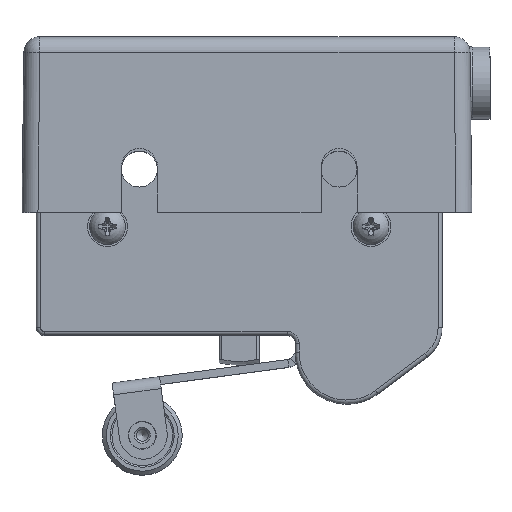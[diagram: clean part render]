
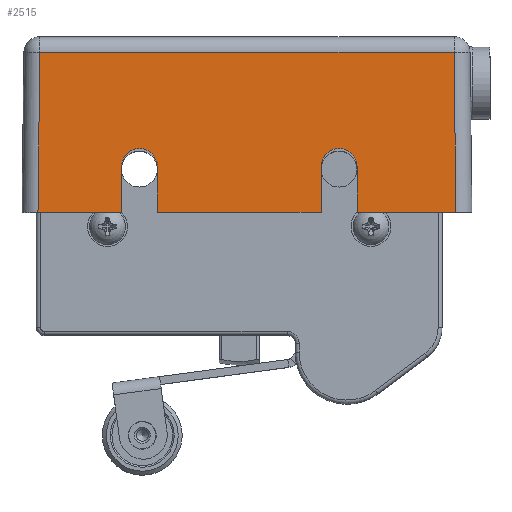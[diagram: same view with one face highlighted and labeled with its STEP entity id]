
A CAD part, top view. The second image highlights one B-rep face of the part: STEP entity #2515.
In plain terms, the highlighted planar face has unit normal (0, 0.012, 1).
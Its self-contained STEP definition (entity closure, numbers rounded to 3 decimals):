
#2515=ADVANCED_FACE('',(#5869),#5871,.T.);
#5869=FACE_BOUND('',#5870,.T.);
#5870=EDGE_LOOP('',(#8336,#8337,#8338,#8339,#8340,#8341,#8342,#8343,#8344,#8345,
#8346,#8347));
#5871=PLANE('',#5872);
#5872=AXIS2_PLACEMENT_3D('',#5873,#5874,#5875);
#5873=CARTESIAN_POINT('',(-27.2,15.4,6.65));
#5874=DIRECTION('',(0.,0.012,1.));
#5875=DIRECTION('',(1.,0.,0.));
#8336=ORIENTED_EDGE('',*,*,#9674,.T.);
#8337=ORIENTED_EDGE('',*,*,#9675,.T.);
#8338=ORIENTED_EDGE('',*,*,#9676,.T.);
#8339=ORIENTED_EDGE('',*,*,#9590,.T.);
#8340=ORIENTED_EDGE('',*,*,#9673,.T.);
#8341=ORIENTED_EDGE('',*,*,#9677,.F.);
#8342=ORIENTED_EDGE('',*,*,#9678,.F.);
#8343=ORIENTED_EDGE('',*,*,#9640,.T.);
#8344=ORIENTED_EDGE('',*,*,#9679,.T.);
#8345=ORIENTED_EDGE('',*,*,#9680,.T.);
#8346=ORIENTED_EDGE('',*,*,#9681,.T.);
#8347=ORIENTED_EDGE('',*,*,#9682,.T.);
#9590=EDGE_CURVE('',#10995,#10993,#10996,.T.);
#9640=EDGE_CURVE('',#11080,#11078,#11081,.T.);
#9673=EDGE_CURVE('',#10993,#11131,#11133,.T.);
#9674=EDGE_CURVE('',#11134,#11135,#11136,.F.);
#9675=EDGE_CURVE('',#11135,#11137,#11138,.T.);
#9676=EDGE_CURVE('',#11137,#10995,#11139,.F.);
#9677=EDGE_CURVE('',#11140,#11131,#11141,.T.);
#9678=EDGE_CURVE('',#11080,#11140,#11142,.T.);
#9679=EDGE_CURVE('',#11078,#11143,#11144,.F.);
#9680=EDGE_CURVE('',#11143,#11145,#11146,.T.);
#9681=EDGE_CURVE('',#11145,#11147,#11148,.F.);
#9682=EDGE_CURVE('',#11147,#11134,#11149,.T.);
#10993=VERTEX_POINT('',#14308);
#10995=VERTEX_POINT('',#14313);
#10996=LINE('',#14314,#14315);
#11078=VERTEX_POINT('',#14518);
#11080=VERTEX_POINT('',#14522);
#11081=LINE('',#14523,#14524);
#11131=VERTEX_POINT('',#14733);
#11133=LINE('',#14738,#14739);
#11134=VERTEX_POINT('',#14741);
#11135=VERTEX_POINT('',#14742);
#11136=LINE('',#14743,#14744);
#11137=VERTEX_POINT('',#14746);
#11138=(BOUNDED_CURVE()B_SPLINE_CURVE(3,
(#14747,#14748,#14749,#14750),
.UNSPECIFIED.,.F.,.F.)B_SPLINE_CURVE_WITH_KNOTS((4,4),
(0.,1.),
.UNSPECIFIED.)CURVE()GEOMETRIC_REPRESENTATION_ITEM()RATIONAL_B_SPLINE_CURVE((1.,
0.333,0.333,1.))REPRESENTATION_ITEM(''));
#11139=LINE('',#14751,#14752);
#11140=VERTEX_POINT('',#14754);
#11141=LINE('',#14755,#14756);
#11142=LINE('',#14758,#14759);
#11143=VERTEX_POINT('',#14761);
#11144=LINE('',#14762,#14763);
#11145=VERTEX_POINT('',#14765);
#11146=(BOUNDED_CURVE()B_SPLINE_CURVE(3,
(#14766,#14767,#14768,#14769),
.UNSPECIFIED.,.F.,.F.)B_SPLINE_CURVE_WITH_KNOTS((4,4),
(0.,1.),
.UNSPECIFIED.)CURVE()GEOMETRIC_REPRESENTATION_ITEM()RATIONAL_B_SPLINE_CURVE((1.,
0.333,0.333,1.))REPRESENTATION_ITEM(''));
#11147=VERTEX_POINT('',#14770);
#11148=LINE('',#14771,#14772);
#11149=LINE('',#14774,#14775);
#14308=CARTESIAN_POINT('',(27.13,15.4,6.65));
#14313=CARTESIAN_POINT('',(14.75,15.4,6.65));
#14314=CARTESIAN_POINT('',(14.75,15.4,6.65));
#14315=VECTOR('',#14316,1.);
#14316=DIRECTION('',(1.,0.,0.));
#14518=CARTESIAN_POINT('',(-14.75,15.4,6.65));
#14522=CARTESIAN_POINT('',(-25.2,15.4,6.65));
#14523=CARTESIAN_POINT('',(-25.2,15.4,6.65));
#14524=VECTOR('',#14525,1.);
#14525=DIRECTION('',(1.,0.,0.));
#14733=CARTESIAN_POINT('',(26.903,35.424,6.413));
#14738=CARTESIAN_POINT('',(27.13,15.4,6.65));
#14739=VECTOR('',#14740,1.);
#14740=DIRECTION('',(-0.011,1.,-0.012));
#14741=CARTESIAN_POINT('',(10.25,15.4,6.65));
#14742=CARTESIAN_POINT('',(10.25,21.15,6.582));
#14743=CARTESIAN_POINT('',(10.25,21.15,6.582));
#14744=VECTOR('',#14745,1.);
#14745=DIRECTION('',(0.,-1.,0.012));
#14746=CARTESIAN_POINT('',(14.75,21.15,6.582));
#14747=CARTESIAN_POINT('',(10.25,21.15,6.582));
#14748=CARTESIAN_POINT('',(10.25,25.65,6.529));
#14749=CARTESIAN_POINT('',(14.75,25.65,6.529));
#14750=CARTESIAN_POINT('',(14.75,21.15,6.582));
#14751=CARTESIAN_POINT('',(14.75,15.4,6.65));
#14752=VECTOR('',#14753,1.);
#14753=DIRECTION('',(0.,1.,-0.012));
#14754=CARTESIAN_POINT('',(-24.973,35.424,6.413));
#14755=CARTESIAN_POINT('',(-24.973,35.424,6.413));
#14756=VECTOR('',#14757,1.);
#14757=DIRECTION('',(1.,0.,0.));
#14758=CARTESIAN_POINT('',(-25.2,15.4,6.65));
#14759=VECTOR('',#14760,1.);
#14760=DIRECTION('',(0.011,1.,-0.012));
#14761=CARTESIAN_POINT('',(-14.75,21.15,6.582));
#14762=CARTESIAN_POINT('',(-14.75,21.15,6.582));
#14763=VECTOR('',#14764,1.);
#14764=DIRECTION('',(0.,-1.,0.012));
#14765=CARTESIAN_POINT('',(-10.25,21.15,6.582));
#14766=CARTESIAN_POINT('',(-14.75,21.15,6.582));
#14767=CARTESIAN_POINT('',(-14.75,25.65,6.529));
#14768=CARTESIAN_POINT('',(-10.25,25.65,6.529));
#14769=CARTESIAN_POINT('',(-10.25,21.15,6.582));
#14770=CARTESIAN_POINT('',(-10.25,15.4,6.65));
#14771=CARTESIAN_POINT('',(-10.25,15.4,6.65));
#14772=VECTOR('',#14773,1.);
#14773=DIRECTION('',(0.,1.,-0.012));
#14774=CARTESIAN_POINT('',(-10.25,15.4,6.65));
#14775=VECTOR('',#14776,1.);
#14776=DIRECTION('',(1.,0.,0.));
